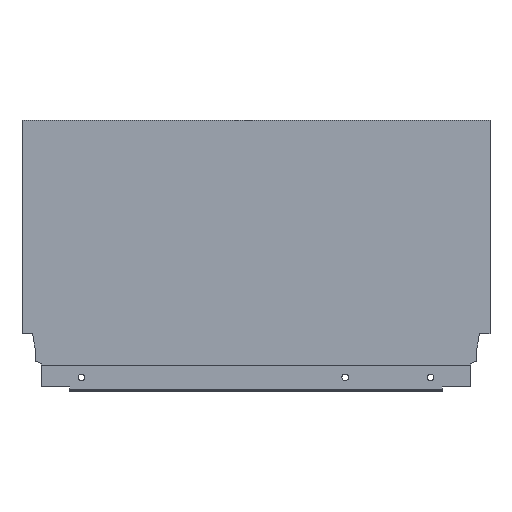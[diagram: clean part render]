
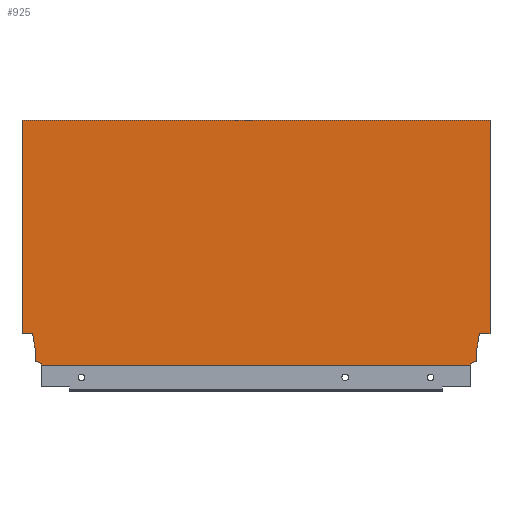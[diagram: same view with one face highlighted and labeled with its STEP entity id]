
A CAD part, top view. The second image highlights one B-rep face of the part: STEP entity #925.
In plain terms, the highlighted planar face has unit normal (0, 0, 1).
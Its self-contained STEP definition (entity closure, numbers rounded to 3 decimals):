
#11 = CARTESIAN_POINT ( 'NONE',  ( -315., 164.7, 7.5 ) ) ;
#14 = CARTESIAN_POINT ( 'NONE',  ( -315., 21.2, 7.5 ) ) ;
#15 = CARTESIAN_POINT ( 'NONE',  ( -301.996, 0., 7.5 ) ) ;
#23 = CARTESIAN_POINT ( 'NONE',  ( -8.9, 2.64, 7.5 ) ) ;
#38 = CARTESIAN_POINT ( 'NONE',  ( -7.06, 21.2, 7.5 ) ) ;
#42 = CARTESIAN_POINT ( 'NONE',  ( 0., 21.2, 7.5 ) ) ;
#59 = CARTESIAN_POINT ( 'NONE',  ( -307.94, 21.2, 7.5 ) ) ;
#60 = CARTESIAN_POINT ( 'NONE',  ( 0., 164.7, 7.5 ) ) ;
#68 = CARTESIAN_POINT ( 'NONE',  ( -8.9, 10.765, 7.5 ) ) ;
#69 = CARTESIAN_POINT ( 'NONE',  ( -13.004, 0., 7.5 ) ) ;
#70 = CARTESIAN_POINT ( 'NONE',  ( -306.1, 2.64, 7.5 ) ) ;
#71 = CARTESIAN_POINT ( 'NONE',  ( -13.004, 1.146, 7.5 ) ) ;
#80 = CARTESIAN_POINT ( 'NONE',  ( -301.996, 1.146, 7.5 ) ) ;
#81 = CARTESIAN_POINT ( 'NONE',  ( -306.1, 10.765, 7.5 ) ) ;
#138 = EDGE_CURVE ( 'NONE', #1455, #1495, #385, .T. ) ;
#139 = EDGE_CURVE ( 'NONE', #1455, #1494, #381, .T. ) ;
#140 = EDGE_CURVE ( 'NONE', #1389, #1477, #377, .T. ) ;
#142 = EDGE_CURVE ( 'NONE', #1494, #1500, #373, .T. ) ;
#143 = EDGE_CURVE ( 'NONE', #1477, #1449, #388, .T. ) ;
#144 = EDGE_CURVE ( 'NONE', #1385, #1449, #378, .T. ) ;
#145 = EDGE_CURVE ( 'NONE', #1500, #1389, #367, .T. ) ;
#146 = EDGE_CURVE ( 'NONE', #1488, #1481, #374, .T. ) ;
#147 = EDGE_CURVE ( 'NONE', #1510, #1495, #370, .T. ) ;
#148 = EDGE_CURVE ( 'NONE', #1453, #1488, #360, .T. ) ;
#149 = EDGE_CURVE ( 'NONE', #1481, #1510, #368, .T. ) ;
#150 = EDGE_CURVE ( 'NONE', #1445, #1453, #364, .T. ) ;
#151 = EDGE_CURVE ( 'NONE', #1423, #1445, #361, .T. ) ;
#152 = EDGE_CURVE ( 'NONE', #1385, #1423, #357, .T. ) ;
#276 = AXIS2_PLACEMENT_3D ( 'NONE', #1122, #1069, #1085 ) ;
#325 = ORIENTED_EDGE ( 'NONE', *, *, #152, .F. ) ;
#352 = VECTOR ( 'NONE', #1466, 1000. ) ;
#354 = VECTOR ( 'NONE', #1469, 1000. ) ;
#356 = VECTOR ( 'NONE', #1472, 1000. ) ;
#357 = LINE ( 'NONE', #1471, #352 ) ;
#358 = VECTOR ( 'NONE', #1474, 1000. ) ;
#359 = VECTOR ( 'NONE', #1476, 1000. ) ;
#360 = LINE ( 'NONE', #1478, #359 ) ;
#361 = LINE ( 'NONE', #1473, #354 ) ;
#363 = VECTOR ( 'NONE', #1480, 1000. ) ;
#364 = LINE ( 'NONE', #1475, #356 ) ;
#365 = VECTOR ( 'NONE', #1483, 1000. ) ;
#366 = VECTOR ( 'NONE', #1485, 1000. ) ;
#367 = LINE ( 'NONE', #1486, #366 ) ;
#368 = LINE ( 'NONE', #1482, #358 ) ;
#369 = VECTOR ( 'NONE', #1487, 1000. ) ;
#370 = LINE ( 'NONE', #1484, #363 ) ;
#371 = VECTOR ( 'NONE', #1491, 1000. ) ;
#372 = VECTOR ( 'NONE', #1493, 1000. ) ;
#373 = LINE ( 'NONE', #1496, #372 ) ;
#374 = LINE ( 'NONE', #1489, #365 ) ;
#376 = VECTOR ( 'NONE', #1501, 1000. ) ;
#377 = LINE ( 'NONE', #1502, #376 ) ;
#378 = LINE ( 'NONE', #1492, #369 ) ;
#379 = VECTOR ( 'NONE', #1504, 1000. ) ;
#381 = LINE ( 'NONE', #1515, #379 ) ;
#383 = VECTOR ( 'NONE', #1507, 1000. ) ;
#385 = LINE ( 'NONE', #1508, #383 ) ;
#388 = LINE ( 'NONE', #1499, #371 ) ;
#418 = ORIENTED_EDGE ( 'NONE', *, *, #144, .T. ) ;
#427 = ORIENTED_EDGE ( 'NONE', *, *, #143, .F. ) ;
#460 = ORIENTED_EDGE ( 'NONE', *, *, #140, .F. ) ;
#461 = ORIENTED_EDGE ( 'NONE', *, *, #145, .F. ) ;
#462 = ORIENTED_EDGE ( 'NONE', *, *, #142, .F. ) ;
#463 = ORIENTED_EDGE ( 'NONE', *, *, #139, .F. ) ;
#464 = ORIENTED_EDGE ( 'NONE', *, *, #138, .T. ) ;
#465 = ORIENTED_EDGE ( 'NONE', *, *, #147, .F. ) ;
#466 = ORIENTED_EDGE ( 'NONE', *, *, #150, .F. ) ;
#467 = ORIENTED_EDGE ( 'NONE', *, *, #148, .F. ) ;
#468 = ORIENTED_EDGE ( 'NONE', *, *, #146, .F. ) ;
#469 = ORIENTED_EDGE ( 'NONE', *, *, #149, .F. ) ;
#470 = ORIENTED_EDGE ( 'NONE', *, *, #151, .F. ) ;
#494 = FACE_OUTER_BOUND ( 'NONE', #884, .T. ) ;
#884 = EDGE_LOOP ( 'NONE', ( #418, #427, #460, #461, #462, #463, #464, #465, #469, #468, #467, #466, #470, #325 ) ) ;
#925 = ADVANCED_FACE ( 'NONE', ( #494 ), #1084, .T. ) ;
#1069 = DIRECTION ( 'NONE',  ( 0., 0., 1. ) ) ;
#1084 = PLANE ( 'NONE',  #276 ) ;
#1085 = DIRECTION ( 'NONE',  ( 1., 0., 0. ) ) ;
#1122 = CARTESIAN_POINT ( 'NONE',  ( -315., 0., 7.5 ) ) ;
#1385 = VERTEX_POINT ( 'NONE', #11 ) ;
#1389 = VERTEX_POINT ( 'NONE', #81 ) ;
#1423 = VERTEX_POINT ( 'NONE', #60 ) ;
#1445 = VERTEX_POINT ( 'NONE', #42 ) ;
#1449 = VERTEX_POINT ( 'NONE', #14 ) ;
#1453 = VERTEX_POINT ( 'NONE', #38 ) ;
#1455 = VERTEX_POINT ( 'NONE', #15 ) ;
#1466 = DIRECTION ( 'NONE',  ( 1., 0., 0. ) ) ;
#1469 = DIRECTION ( 'NONE',  ( 0., -1., 0. ) ) ;
#1471 = CARTESIAN_POINT ( 'NONE',  ( -315., 164.7, 7.5 ) ) ;
#1472 = DIRECTION ( 'NONE',  ( -1., 0., 0. ) ) ;
#1473 = CARTESIAN_POINT ( 'NONE',  ( 0., 0., 7.5 ) ) ;
#1474 = DIRECTION ( 'NONE',  ( -0.94, -0.342, 0. ) ) ;
#1475 = CARTESIAN_POINT ( 'NONE',  ( 0., 21.2, 7.5 ) ) ;
#1476 = DIRECTION ( 'NONE',  ( -0.174, -0.985, 0. ) ) ;
#1477 = VERTEX_POINT ( 'NONE', #59 ) ;
#1478 = CARTESIAN_POINT ( 'NONE',  ( -7.06, 21.2, 7.5 ) ) ;
#1480 = DIRECTION ( 'NONE',  ( 0., -1., 0. ) ) ;
#1481 = VERTEX_POINT ( 'NONE', #23 ) ;
#1482 = CARTESIAN_POINT ( 'NONE',  ( -8.9, 2.64, 7.5 ) ) ;
#1483 = DIRECTION ( 'NONE',  ( 0., -1., 0. ) ) ;
#1484 = CARTESIAN_POINT ( 'NONE',  ( -13.004, 1.146, 7.5 ) ) ;
#1485 = DIRECTION ( 'NONE',  ( 0., 1., 0. ) ) ;
#1486 = CARTESIAN_POINT ( 'NONE',  ( -306.1, 10.765, 7.5 ) ) ;
#1487 = DIRECTION ( 'NONE',  ( 0., -1., 0. ) ) ;
#1488 = VERTEX_POINT ( 'NONE', #68 ) ;
#1489 = CARTESIAN_POINT ( 'NONE',  ( -8.9, 10.765, 7.5 ) ) ;
#1491 = DIRECTION ( 'NONE',  ( -1., 0., 0. ) ) ;
#1492 = CARTESIAN_POINT ( 'NONE',  ( -315., 0., 7.5 ) ) ;
#1493 = DIRECTION ( 'NONE',  ( -0.94, 0.342, 0. ) ) ;
#1494 = VERTEX_POINT ( 'NONE', #80 ) ;
#1495 = VERTEX_POINT ( 'NONE', #69 ) ;
#1496 = CARTESIAN_POINT ( 'NONE',  ( -306.1, 2.64, 7.5 ) ) ;
#1499 = CARTESIAN_POINT ( 'NONE',  ( -320., 21.2, 7.5 ) ) ;
#1500 = VERTEX_POINT ( 'NONE', #70 ) ;
#1501 = DIRECTION ( 'NONE',  ( -0.174, 0.985, 0. ) ) ;
#1502 = CARTESIAN_POINT ( 'NONE',  ( -307.94, 21.2, 7.5 ) ) ;
#1504 = DIRECTION ( 'NONE',  ( 0., 1., 0. ) ) ;
#1507 = DIRECTION ( 'NONE',  ( 1., 0., 0. ) ) ;
#1508 = CARTESIAN_POINT ( 'NONE',  ( -315., 0., 7.5 ) ) ;
#1510 = VERTEX_POINT ( 'NONE', #71 ) ;
#1515 = CARTESIAN_POINT ( 'NONE',  ( -301.996, 1.146, 7.5 ) ) ;
